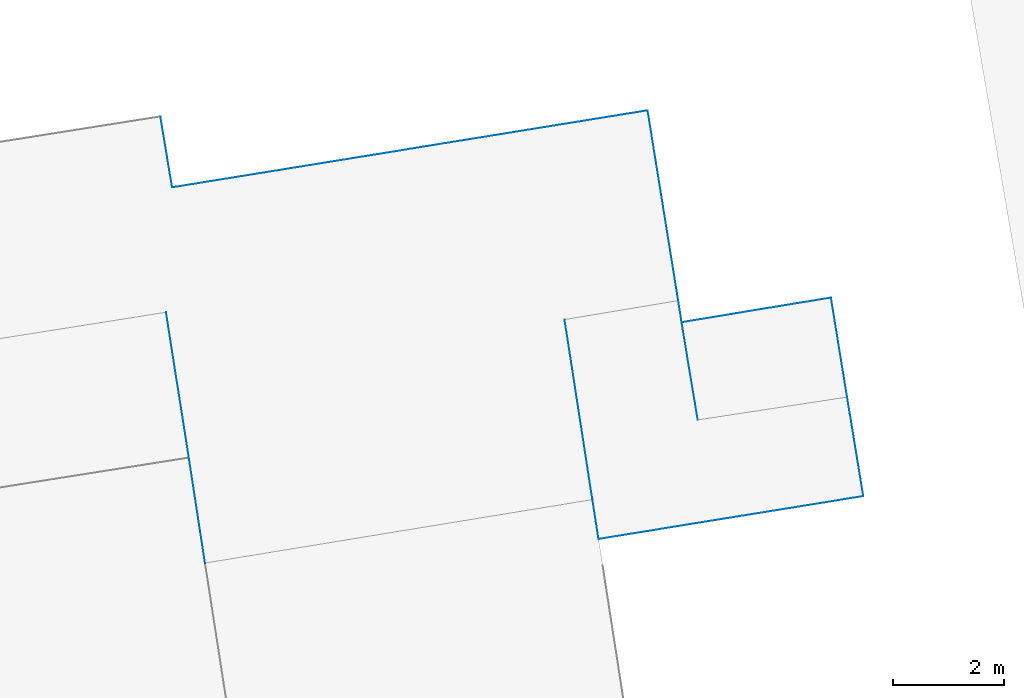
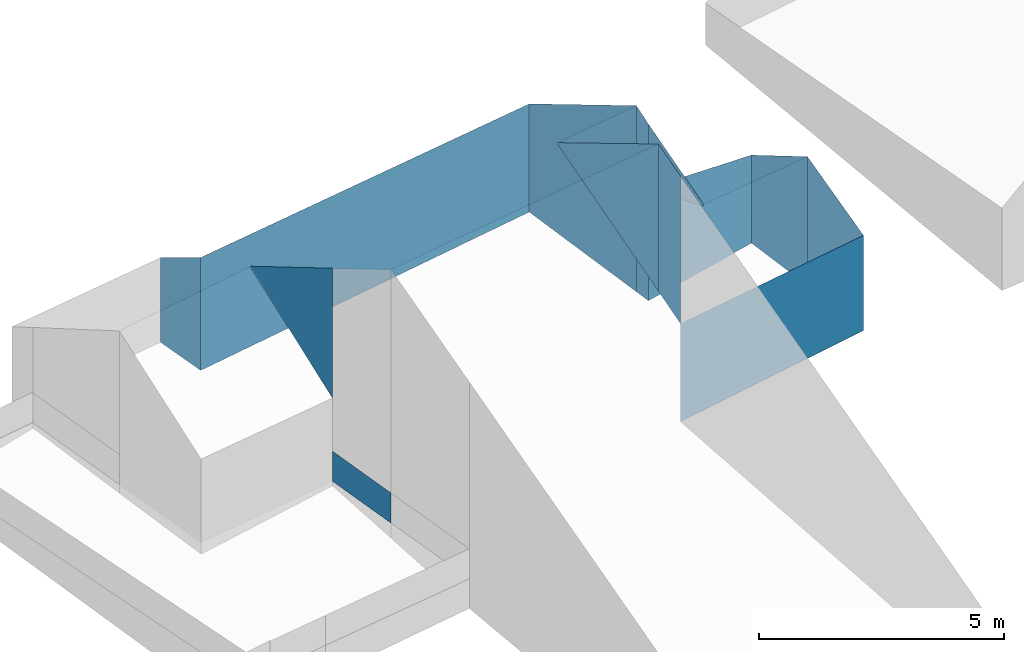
# Not in any storey, part 29 of 57: 13 walls.
"""IFC2X3 building model written with IfcOpenShell, lengths in metres."""

from ifc_helpers import new_model, entity, si_unit, converted_unit, origin, place, context, subcontext, project, spatial, face_set, surface_model, element, save


model = new_model("IFC2X3")

# Units and contexts
model_context = context("Model", 3, precision=1e-05, world=origin())
body_context = subcontext(model_context, "Body", "Model", "MODEL_VIEW")
ifc_project = project(units=[converted_unit("PLANEANGLEUNIT", "DEGREE", entity("IfcRatioMeasure", 0.0174532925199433), si_unit("PLANEANGLEUNIT", "RADIAN"), dimensions=[0, 0, 0, 0, 0, 0, 0]), si_unit("AREAUNIT", "SQUARE_METRE"), si_unit("LENGTHUNIT", "METRE")], contexts=[model_context])

# Site, building
site_placement = place(None, origin())
site = spatial("IfcSite", under=ifc_project, at=site_placement, Name="_site", CompositionType="ELEMENT")
building_placement = place(site_placement, origin())
building = spatial("IfcBuilding", under=site, at=building_placement, Name="_building", CompositionType="ELEMENT")

# Walls
wall_1_placement = place(building_placement, origin())
element("IfcWall", 1, at=wall_1_placement, inside=building, Name="Wall", context=body_context, shape_type="SurfaceModel", body=[
    surface_model("IfcFaceBasedSurfaceModel", [(167.71, 242.08, 224.64), (168.21, 238.85, 226.39), (168.21, 238.85, 222.729), (167.71, 242.08, 224.59)], [face_set([[[0, 1, 2, 3]]])]),
])
wall_2_placement = place(building_placement, origin())
element("IfcWall", 2, at=wall_2_placement, inside=building, Name="Wall", context=body_context, shape_type="SurfaceModel", body=[
    surface_model("IfcFaceBasedSurfaceModel", [(168.21, 238.85, 226.39), (168.32, 238.141, 225.99), (168.32, 238.141, 222.31), (168.21, 238.85, 222.729)], [face_set([[[0, 1, 2, 3]]])]),
])
wall_3_placement = place(building_placement, origin())
element("IfcWall", 3, at=wall_3_placement, inside=building, Name="Wall", context=body_context, shape_type="SurfaceModel", body=[
    surface_model("IfcFaceBasedSurfaceModel", [(160.97, 239.6, 225.38), (160.56, 242.211, 223.99), (160.56, 242.211, 223.94), (160.97, 239.6, 222.15)], [face_set([[[0, 1, 2, 3]]])]),
])
wall_4_placement = place(building_placement, origin())
element("IfcWall", 4, at=wall_4_placement, inside=building, Name="Wall", context=body_context, shape_type="SurfaceModel", body=[
    surface_model("IfcFaceBasedSurfaceModel", [(169.81, 242.029, 224.4), (170.1, 240.279, 223.36), (170.1, 240.279, 223.31), (169.81, 242.029, 222.8)], [face_set([[[0, 1, 2, 3]]])]),
])
wall_5_placement = place(building_placement, origin())
element("IfcWall", 5, at=wall_5_placement, inside=building, Name="Wall", context=body_context, shape_type="SurfaceModel", body=[
    surface_model("IfcFaceBasedSurfaceModel", [(169.2, 245.83, 222.81), (169.75, 242.42, 224.64), (169.75, 242.42, 220.01), (169.2, 245.83, 220.116)], [face_set([[[0, 1, 2, 3]]])]),
])
wall_6_placement = place(building_placement, origin())
element("IfcWall", 6, at=wall_6_placement, inside=building, Name="Wall", context=body_context, shape_type="SurfaceModel", body=[
    surface_model("IfcFaceBasedSurfaceModel", [(169.75, 242.42, 224.64), (169.81, 242.029, 224.4), (169.81, 242.029, 220.0), (169.75, 242.42, 220.01)], [face_set([[[0, 1, 2, 3]]])]),
])
wall_7_placement = place(building_placement, origin())
element("IfcWall", 7, at=wall_7_placement, inside=building, Name="Wall", context=body_context, shape_type="SurfaceModel", body=[
    surface_model("IfcFaceBasedSurfaceModel", [(172.49, 242.471, 222.42), (172.78, 240.689, 223.36), (172.78, 240.689, 220.154), (172.49, 242.471, 220.228)], [face_set([[[0, 1, 2, 3]]])]),
])
wall_8_placement = place(building_placement, origin())
element("IfcWall", 8, at=wall_8_placement, inside=building, Name="Wall", context=body_context, shape_type="SurfaceModel", body=[
    surface_model("IfcFaceBasedSurfaceModel", [(172.78, 240.689, 223.36), (173.07, 238.91, 222.38), (173.07, 238.91, 220.008), (172.78, 240.689, 220.154)], [face_set([[[0, 1, 2, 3]]])]),
])
wall_9_placement = place(building_placement, origin())
element("IfcWall", 9, at=wall_9_placement, inside=building, Name="Wall", context=body_context, shape_type="SurfaceModel", body=[
    surface_model("IfcFaceBasedSurfaceModel", [(160.67, 244.449, 222.81), (169.2, 245.83, 222.81), (169.2, 245.83, 220.116), (160.67, 244.449, 220.0)], [face_set([[[0, 1, 2, 3]]])]),
])
wall_10_placement = place(building_placement, origin())
element("IfcWall", 10, at=wall_10_placement, inside=building, Name="Wall", context=body_context, shape_type="SurfaceModel", body=[
    surface_model("IfcFaceBasedSurfaceModel", [(160.46, 245.721, 222.11), (160.67, 244.449, 222.81), (160.67, 244.449, 220.0), (160.46, 245.721, 220.0)], [face_set([[[0, 1, 2, 3]]])]),
])
wall_11_placement = place(building_placement, origin())
element("IfcWall", 11, at=wall_11_placement, inside=building, Name="Wall", context=body_context, shape_type="SurfaceModel", body=[
    surface_model("IfcFaceBasedSurfaceModel", [(169.81, 242.029, 222.8), (172.49, 242.471, 222.42), (172.49, 242.471, 220.228), (169.81, 242.029, 220.0)], [face_set([[[0, 1, 2, 3]]])]),
])
wall_12_placement = place(building_placement, origin())
element("IfcWall", 12, at=wall_12_placement, inside=building, Name="Wall", context=body_context, shape_type="SurfaceModel", body=[
    surface_model("IfcFaceBasedSurfaceModel", [(173.07, 238.91, 222.38), (168.32, 238.141, 222.31), (168.32, 238.141, 219.868), (173.07, 238.91, 220.008)], [face_set([[[0, 1, 2, 3]]])]),
])
wall_13_placement = place(building_placement, origin())
element("IfcWall", 13, at=wall_13_placement, inside=building, Name="Wall", context=body_context, shape_type="SurfaceModel", body=[
    surface_model("IfcFaceBasedSurfaceModel", [(161.26, 237.711, 220.08), (160.97, 239.6, 220.08), (160.97, 239.6, 220.83), (161.26, 237.711, 220.83)], [face_set([[[0, 1, 2, 3]]])]),
])

save(model, "model.ifc")
